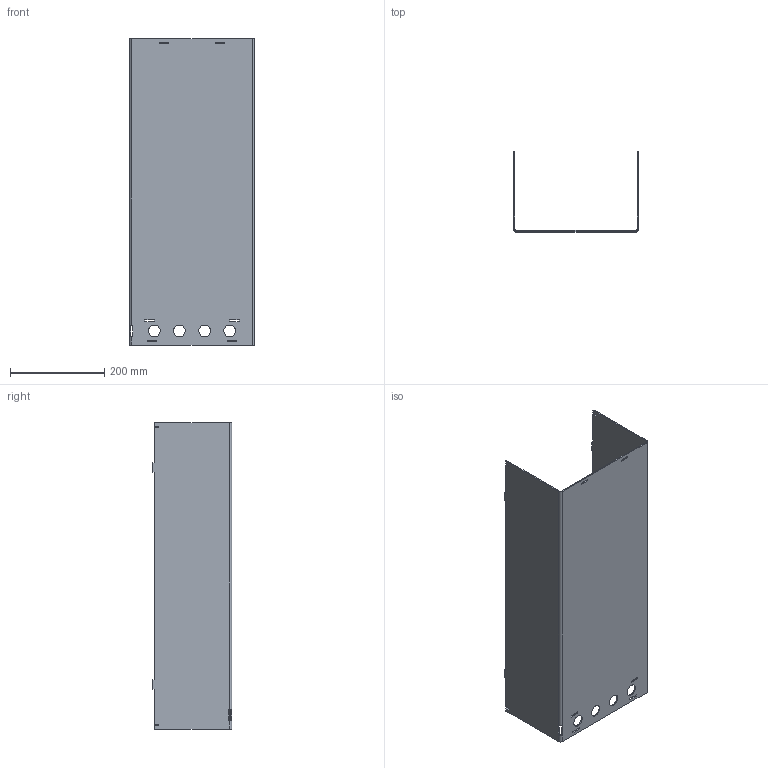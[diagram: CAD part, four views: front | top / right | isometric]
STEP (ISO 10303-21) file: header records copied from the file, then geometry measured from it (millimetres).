
FILE_DESCRIPTION((''),'2;1');
FILE_NAME('288084','2022-12-02T13:23:35',('vmorco'),(''),'CREO PARAMETRIC BY PTC INC, 2020454','CREO PARAMETRIC BY PTC INC, 2020454','');
FILE_SCHEMA(('AUTOMOTIVE_DESIGN { 1 0 10303 214 1 1 1 1 }'));
Length unit declared in the file: millimetre
Products named in the file (1): 288084
Bounding box: 265 x 169 x 650 mm (x, y, z)
Volume: 947446.1 mm3; surface area: 766054.9 mm2
Topology: 1 solids, 1 shells, 108 faces, 324 edges, 216 vertices
Faces by surface type: plane 70, cylinder 38
Entity records: 3759 total; most frequent: CARTESIAN_POINT 650, ORIENTED_EDGE 648, DIRECTION 616, EDGE_CURVE 324, VECTOR 248, LINE 248, VERTEX_POINT 216, AXIS2_PLACEMENT_3D 184
